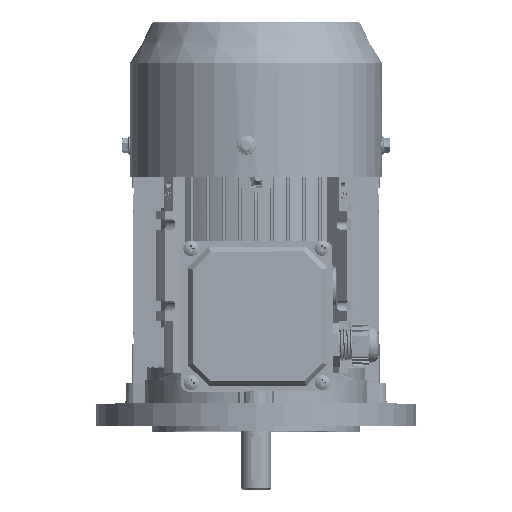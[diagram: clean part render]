
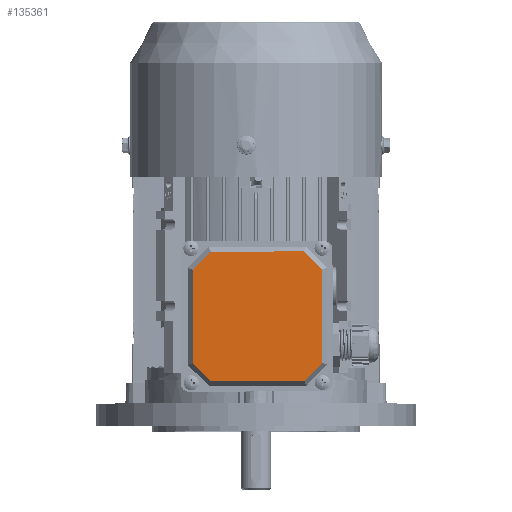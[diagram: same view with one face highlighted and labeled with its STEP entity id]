
A CAD part, top view. The second image highlights one B-rep face of the part: STEP entity #135361.
In plain terms, the highlighted planar face has unit normal (0, 0, 1) as drawn and (0, 1, 0) by its records, which use the part's own axes.
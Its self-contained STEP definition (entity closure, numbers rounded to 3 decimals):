
#7351 = EDGE_CURVE ( 'NONE', #68986, #122774, #82331, .T. ) ;
#10322 = VECTOR ( 'NONE', #111769, 1000. ) ;
#11502 = EDGE_CURVE ( 'NONE', #21287, #88684, #39309, .T. ) ;
#13160 = DIRECTION ( 'NONE',  ( -0.707, 0., -0.707 ) ) ;
#17616 = VERTEX_POINT ( 'NONE', #103759 ) ;
#18848 = ORIENTED_EDGE ( 'NONE', *, *, #7351, .T. ) ;
#20082 = LINE ( 'NONE', #77725, #45382 ) ;
#20586 = CARTESIAN_POINT ( 'NONE',  ( 40.5, 6., 0. ) ) ;
#21063 = CARTESIAN_POINT ( 'NONE',  ( -40.5, 6., 29.15 ) ) ;
#21287 = VERTEX_POINT ( 'NONE', #105383 ) ;
#21699 = VECTOR ( 'NONE', #118022, 1000. ) ;
#22558 = LINE ( 'NONE', #20586, #47821 ) ;
#22847 = VERTEX_POINT ( 'NONE', #36181 ) ;
#25959 = LINE ( 'NONE', #99650, #108561 ) ;
#28520 = FACE_OUTER_BOUND ( 'NONE', #59143, .T. ) ;
#29037 = DIRECTION ( 'NONE',  ( 0.707, 0., -0.707 ) ) ;
#31434 = DIRECTION ( 'NONE',  ( 0., 0., -1. ) ) ;
#31787 = CARTESIAN_POINT ( 'NONE',  ( -40.5, 6., 0. ) ) ;
#32171 = ORIENTED_EDGE ( 'NONE', *, *, #108487, .T. ) ;
#33380 = DIRECTION ( 'NONE',  ( 0., 0., -1. ) ) ;
#36004 = EDGE_CURVE ( 'NONE', #122774, #64032, #20082, .T. ) ;
#36181 = CARTESIAN_POINT ( 'NONE',  ( 40.5, 6., 29.15 ) ) ;
#37625 = AXIS2_PLACEMENT_3D ( 'NONE', #43745, #97897, #33380 ) ;
#38953 = LINE ( 'NONE', #68382, #10322 ) ;
#39309 = LINE ( 'NONE', #67262, #93210 ) ;
#42029 = EDGE_CURVE ( 'NONE', #88684, #57110, #82247, .T. ) ;
#43745 = CARTESIAN_POINT ( 'NONE',  ( 0., 6., 0. ) ) ;
#45382 = VECTOR ( 'NONE', #131452, 1000. ) ;
#47821 = VECTOR ( 'NONE', #31434, 1000. ) ;
#49045 = ORIENTED_EDGE ( 'NONE', *, *, #63484, .T. ) ;
#54654 = CARTESIAN_POINT ( 'NONE',  ( -40.5, 6., -29.15 ) ) ;
#55423 = VECTOR ( 'NONE', #29037, 1000. ) ;
#57110 = VERTEX_POINT ( 'NONE', #76967 ) ;
#59143 = EDGE_LOOP ( 'NONE', ( #93138, #115591, #75386, #128473, #49045, #18848, #130191, #32171 ) ) ;
#63484 = EDGE_CURVE ( 'NONE', #57110, #68986, #25959, .T. ) ;
#64032 = VERTEX_POINT ( 'NONE', #120785 ) ;
#67262 = CARTESIAN_POINT ( 'NONE',  ( 34.825, 6., -34.825 ) ) ;
#68382 = CARTESIAN_POINT ( 'NONE',  ( 0., 6., 40.5 ) ) ;
#68986 = VERTEX_POINT ( 'NONE', #54654 ) ;
#71841 = CARTESIAN_POINT ( 'NONE',  ( 34.825, 6., 34.825 ) ) ;
#75386 = ORIENTED_EDGE ( 'NONE', *, *, #11502, .T. ) ;
#76967 = CARTESIAN_POINT ( 'NONE',  ( -29.15, 6., -40.5 ) ) ;
#77725 = CARTESIAN_POINT ( 'NONE',  ( -34.825, 6., 34.825 ) ) ;
#78908 = VECTOR ( 'NONE', #120268, 1000. ) ;
#82247 = LINE ( 'NONE', #130618, #78908 ) ;
#82331 = LINE ( 'NONE', #31787, #21699 ) ;
#84038 = LINE ( 'NONE', #71841, #55423 ) ;
#87077 = PLANE ( 'NONE',  #37625 ) ;
#88684 = VERTEX_POINT ( 'NONE', #93929 ) ;
#88813 = DIRECTION ( 'NONE',  ( -0.707, 0., 0.707 ) ) ;
#93138 = ORIENTED_EDGE ( 'NONE', *, *, #135650, .T. ) ;
#93210 = VECTOR ( 'NONE', #13160, 1000. ) ;
#93929 = CARTESIAN_POINT ( 'NONE',  ( 29.15, 6., -40.5 ) ) ;
#97897 = DIRECTION ( 'NONE',  ( 0., -1., 0. ) ) ;
#99650 = CARTESIAN_POINT ( 'NONE',  ( -34.825, 6., -34.825 ) ) ;
#103759 = CARTESIAN_POINT ( 'NONE',  ( 29.15, 6., 40.5 ) ) ;
#105383 = CARTESIAN_POINT ( 'NONE',  ( 40.5, 6., -29.15 ) ) ;
#108487 = EDGE_CURVE ( 'NONE', #64032, #17616, #38953, .T. ) ;
#108561 = VECTOR ( 'NONE', #88813, 1000. ) ;
#111769 = DIRECTION ( 'NONE',  ( 1., 0., 0. ) ) ;
#115591 = ORIENTED_EDGE ( 'NONE', *, *, #122750, .T. ) ;
#118022 = DIRECTION ( 'NONE',  ( 0., 0., 1. ) ) ;
#120268 = DIRECTION ( 'NONE',  ( -1., 0., 0. ) ) ;
#120785 = CARTESIAN_POINT ( 'NONE',  ( -29.15, 6., 40.5 ) ) ;
#122750 = EDGE_CURVE ( 'NONE', #22847, #21287, #22558, .T. ) ;
#122774 = VERTEX_POINT ( 'NONE', #21063 ) ;
#128473 = ORIENTED_EDGE ( 'NONE', *, *, #42029, .T. ) ;
#130191 = ORIENTED_EDGE ( 'NONE', *, *, #36004, .T. ) ;
#130618 = CARTESIAN_POINT ( 'NONE',  ( 0., 6., -40.5 ) ) ;
#131452 = DIRECTION ( 'NONE',  ( 0.707, 0., 0.707 ) ) ;
#135361 = ADVANCED_FACE ( 'NONE', ( #28520 ), #87077, .F. ) ;
#135650 = EDGE_CURVE ( 'NONE', #17616, #22847, #84038, .T. ) ;
